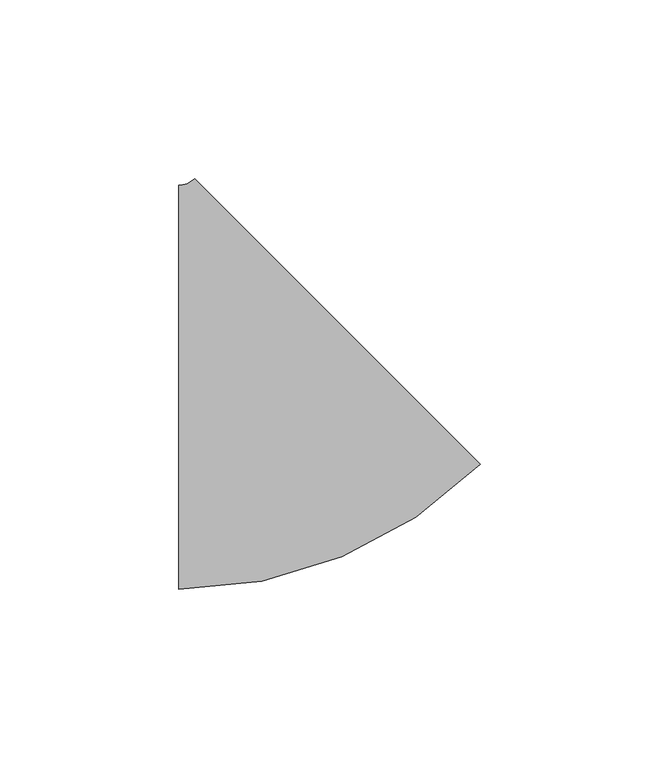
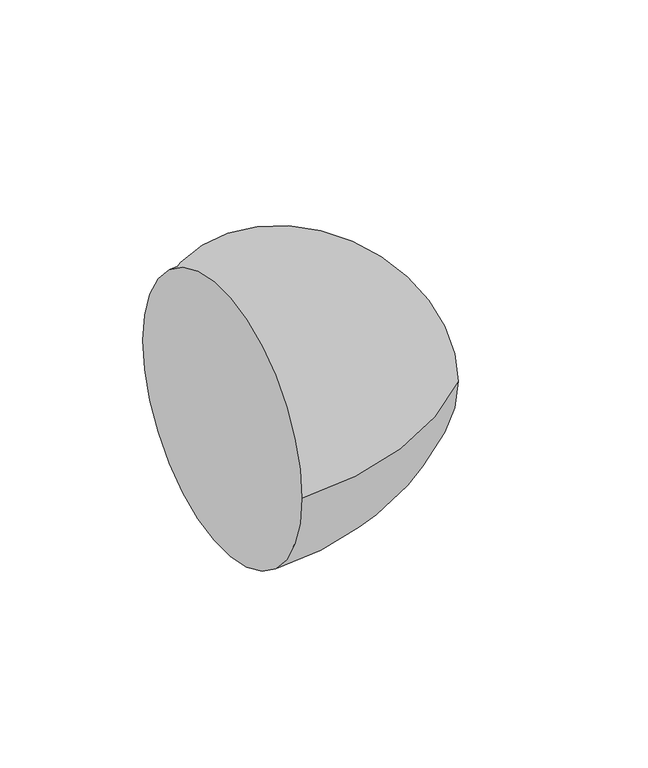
"""IFC4 building model written with IfcOpenShell, lengths in millimetres: pipe fitting geometry, M_Codo - Genérico : Estándar."""

from ifc_helpers import new_model, si_unit, point, frame, origin, place, context, project, spatial, circle_curve, ellipse_curve, trimmed, source, transform, mapped, element, save
from ifc_brep_helpers import plane_surface, revolved_surface, advanced_brep


def pipe_fitting_0af9fee6(model_context):
    return source(origin(), model_context, "Body", "AdvancedBrep", [
        advanced_brep(
        [(-26.0680393, -56.5875, 0.0), (-26.0680393, 56.5875, 0.0), (58.4453985, -21.5829381, 0.0), (-21.5780972, 58.447186, 0.0)],
        [
            (0, 1, circle_curve(frame((-26.0680393, 0.0, 0.0), z_axis=(-1.0, 0.0, 0.0), x_axis=(0.0, 1.0, 0.0)), 56.5875)),
            (1, 0, circle_curve(frame((-26.0680393, 0.0, 0.0), z_axis=(-1.0, 0.0, 0.0), x_axis=(0.0, 1.0, 0.0)), 56.5875)),
            (2, 3, circle_curve(frame((18.4336507, 18.432124, 0.0), z_axis=(0.7071360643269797, 0.7070774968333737, 0.0), x_axis=(-0.7070774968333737, 0.7071360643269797, 0.0)), 56.5875)),
            (3, 2, circle_curve(frame((18.4336507, 18.432124, 0.0), z_axis=(0.7071360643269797, 0.7070774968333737, 0.0), x_axis=(-0.7070774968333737, 0.7071360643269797, 0.0)), 56.5875)),
            (3, 1, circle_curve(frame((-26.0680393, 62.9375, 0.0), z_axis=(0.0, 0.0, -1.0), x_axis=(0.0, -1.0, 0.0)), 6.35)),
            (0, 2, circle_curve(frame((-26.0680393, 62.9375, 0.0), z_axis=(0.0, 0.0, 1.0), x_axis=(0.0, -1.0, 0.0)), 119.525)),
        ],
        [
            plane_surface(frame((-26.0680393, 0.0, 0.0), z_axis=(-1.0, 0.0, 0.0), x_axis=(0.0, 0.0, 1.0))),
            plane_surface(frame((18.4336507, 18.432124, 0.0), z_axis=(0.7071360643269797, 0.7070774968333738, 0.0), x_axis=(0.0, 0.0, 1.0))),
            revolved_surface(trimmed(ellipse_curve(frame((-26.0680393, 0.0, 0.0), z_axis=(-1.0, 0.0, 0.0), x_axis=(0.0, 1.0, 0.0)), 56.5875, 56.5875), [point((-26.0680393, -56.5875, 0.0))], [point((-26.0680393, 56.5875, 0.0))], True, "CARTESIAN"), (-26.0680393, 62.9375, 0.0), (0.0, 0.0, 1.0)),
            revolved_surface(trimmed(ellipse_curve(frame((-26.0680393, 0.0, 0.0), z_axis=(-1.0, 0.0, 0.0), x_axis=(0.0, 1.0, 0.0)), 56.5875, 56.5875), [point((-26.0680393, 56.5875, 0.0))], [point((-26.0680393, -56.5875, 0.0))], True, "CARTESIAN"), (-26.0680393, 62.9375, 0.0), (0.0, 0.0, 1.0)),
        ],
        [
            (0, [[1, 2]]),
            (1, [[3, 4]]),
            (2, [[5, -1, 6, -4]]),
            (3, [[-6, -2, -5, -3]]),
        ],
    ),
    ])


if __name__ == "__main__":
    model = new_model("IFC4")
    model_context = context("Model", 3, world=origin())
    ifc_project = project(units=[si_unit("LENGTHUNIT", "METRE", prefix="MILLI")], contexts=[model_context])
    site = spatial("IfcSite", under=ifc_project)
    building = spatial("IfcBuilding", under=site)
    placement = place(None, origin())
    pipe_fitting_shape = pipe_fitting_0af9fee6(model_context)
    element("IfcPipeFitting", 1, ObjectType="M_Codo - Genérico : Estándar", at=placement, inside=building, context=model_context, shape_type="MappedRepresentation", body=[
        mapped(pipe_fitting_shape, transform((0.0, 0.0, 0.0), x_axis=(1.0, 0.0, 0.0), y_axis=(0.0, 1.0, 0.0), z_axis=(0.0, 0.0, 1.0))),
    ])
    save(model, "model.ifc")
